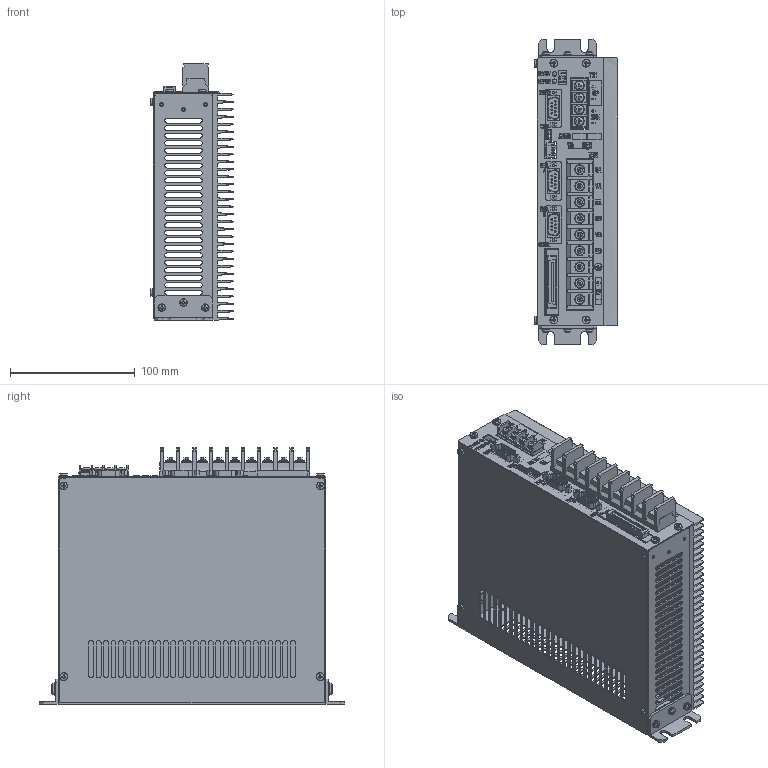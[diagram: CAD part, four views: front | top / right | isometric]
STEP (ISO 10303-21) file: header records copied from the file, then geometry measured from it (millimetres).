
FILE_DESCRIPTION(('HOOPS Exchange Step'),'2;1');
FILE_NAME('/tmp/9617441f1f46f37790d86ab9e45ca37b20210916-1-1imsrp4.X_T.step','2021-09-16T06:16:30+00:00',('root'),('Unknown organisation'),'HOOPS Exchange 2021.0','HOOPS Exchange','Unknown authorisation');
FILE_SCHEMA( ('AUTOMOTIVE_DESIGN { 1 0 10303 214 1 1 1 1 }') );
Length unit declared in the file: millimetre
Products named in the file (1): 9617441f1f46f37790d86ab9e45ca37b20210916-1-1imsrp4
Bounding box: 67.4 x 245 x 205.51 mm (x, y, z)
Volume: 396537.2 mm3; surface area: 450372.5 mm2
Topology: 277 solids, 694 shells, 3801 faces, 15786 edges, 12996 vertices
Faces by surface type: plane 2523, cylinder 1061, bspline 166, sphere 29, extrusion 14, cone 8
Full cylindrical faces by diameter (mm): 0.5 x54, 0.8 x53, 1 x27, 1.2 x27, 1.7 x2, 2 x49, 2.4 x12, 2.5 x2, 3 x73, 3.1 x8, 3.5 x20, 3.8 x4, 4 x65, 5.5 x6, 6 x8, 7 x27, 8 x23
Entity records: 187175 total; most frequent: CARTESIAN_POINT 56204, ORIENTED_EDGE 24776, DIRECTION 24265, EDGE_CURVE 15744, VERTEX_POINT 12994, VECTOR 11515, LINE 11501, AXIS2_PLACEMENT_3D 6375
